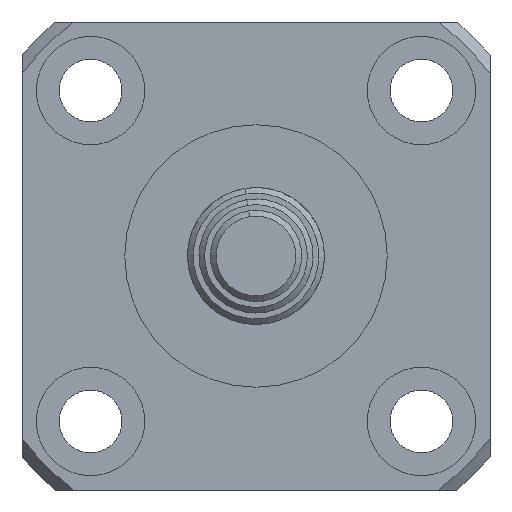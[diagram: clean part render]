
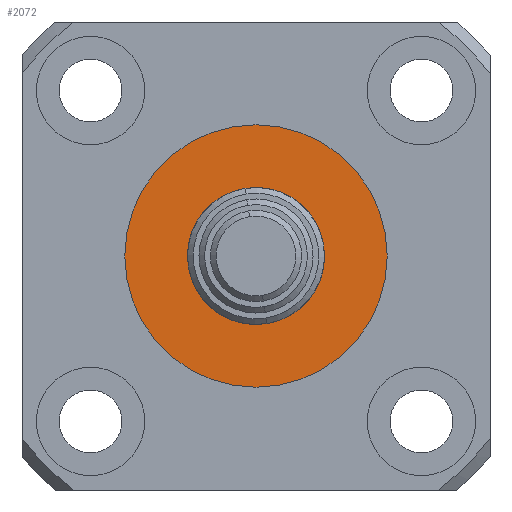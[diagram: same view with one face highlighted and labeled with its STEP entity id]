
A CAD part, left-side view. The second image highlights one B-rep face of the part: STEP entity #2072.
In plain terms, the highlighted planar face has unit normal (-1, 0, 0).
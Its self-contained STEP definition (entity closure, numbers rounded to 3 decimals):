
#51 = AXIS2_PLACEMENT_3D ( 'NONE', #3546, #1819, #147 ) ;
#125 = DIRECTION ( 'NONE',  ( -1., 0., 0. ) ) ;
#147 = DIRECTION ( 'NONE',  ( 0., 0., 1. ) ) ;
#231 = PLANE ( 'NONE',  #1583 ) ;
#267 = DIRECTION ( 'NONE',  ( 0., 0., 1. ) ) ;
#417 = DIRECTION ( 'NONE',  ( -1., 0., 0. ) ) ;
#689 = CIRCLE ( 'NONE', #3462, 11.5 ) ;
#728 = EDGE_CURVE ( 'NONE', #2349, #3185, #689, .T. ) ;
#745 = VERTEX_POINT ( 'NONE', #2684 ) ;
#812 = CARTESIAN_POINT ( 'NONE',  ( 6., 0., 0. ) ) ;
#818 = AXIS2_PLACEMENT_3D ( 'NONE', #3660, #1945, #267 ) ;
#882 = EDGE_CURVE ( 'NONE', #3185, #2349, #1715, .T. ) ;
#1093 = VERTEX_POINT ( 'NONE', #1112 ) ;
#1112 = CARTESIAN_POINT ( 'NONE',  ( 6., 0., -6. ) ) ;
#1338 = EDGE_LOOP ( 'NONE', ( #2440, #2963 ) ) ;
#1400 = CIRCLE ( 'NONE', #51, 6. ) ;
#1461 = CARTESIAN_POINT ( 'NONE',  ( 6., 0., 11.5 ) ) ;
#1583 = AXIS2_PLACEMENT_3D ( 'NONE', #812, #3369, #1635 ) ;
#1613 = CIRCLE ( 'NONE', #818, 6. ) ;
#1635 = DIRECTION ( 'NONE',  ( 0., 0., 1. ) ) ;
#1647 = FACE_BOUND ( 'NONE', #2975, .T. ) ;
#1715 = CIRCLE ( 'NONE', #3213, 11.5 ) ;
#1774 = EDGE_CURVE ( 'NONE', #745, #1093, #1400, .T. ) ;
#1797 = CARTESIAN_POINT ( 'NONE',  ( 6., 0., 0. ) ) ;
#1819 = DIRECTION ( 'NONE',  ( 1., 0., 0. ) ) ;
#1840 = CARTESIAN_POINT ( 'NONE',  ( 6., 0., -11.5 ) ) ;
#1945 = DIRECTION ( 'NONE',  ( 1., 0., 0. ) ) ;
#2072 = ADVANCED_FACE ( 'NONE', ( #2420, #1647 ), #231, .T. ) ;
#2078 = DIRECTION ( 'NONE',  ( 0., 0., 1. ) ) ;
#2095 = CARTESIAN_POINT ( 'NONE',  ( 6., 0., 0. ) ) ;
#2157 = ORIENTED_EDGE ( 'NONE', *, *, #1774, .T. ) ;
#2349 = VERTEX_POINT ( 'NONE', #1461 ) ;
#2390 = DIRECTION ( 'NONE',  ( 0., 0., 1. ) ) ;
#2420 = FACE_OUTER_BOUND ( 'NONE', #1338, .T. ) ;
#2440 = ORIENTED_EDGE ( 'NONE', *, *, #728, .T. ) ;
#2684 = CARTESIAN_POINT ( 'NONE',  ( 6., 0., 6. ) ) ;
#2795 = EDGE_CURVE ( 'NONE', #1093, #745, #1613, .T. ) ;
#2963 = ORIENTED_EDGE ( 'NONE', *, *, #882, .T. ) ;
#2975 = EDGE_LOOP ( 'NONE', ( #2157, #3084 ) ) ;
#3084 = ORIENTED_EDGE ( 'NONE', *, *, #2795, .T. ) ;
#3185 = VERTEX_POINT ( 'NONE', #1840 ) ;
#3213 = AXIS2_PLACEMENT_3D ( 'NONE', #2095, #417, #2390 ) ;
#3369 = DIRECTION ( 'NONE',  ( -1., 0., 0. ) ) ;
#3462 = AXIS2_PLACEMENT_3D ( 'NONE', #1797, #125, #2078 ) ;
#3546 = CARTESIAN_POINT ( 'NONE',  ( 6., 0., 0. ) ) ;
#3660 = CARTESIAN_POINT ( 'NONE',  ( 6., 0., 0. ) ) ;
